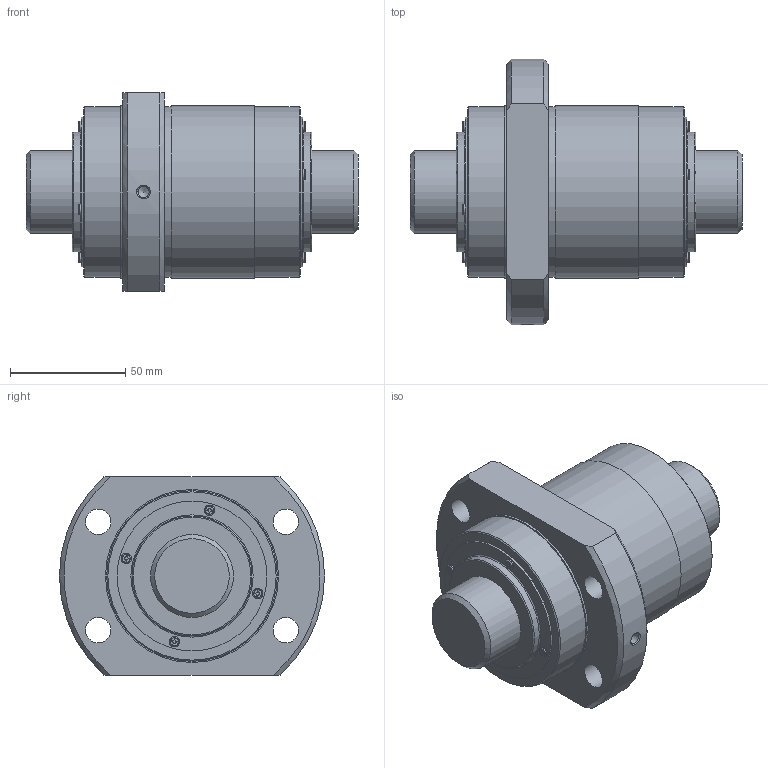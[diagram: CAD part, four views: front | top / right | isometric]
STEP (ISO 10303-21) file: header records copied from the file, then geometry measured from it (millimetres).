
FILE_DESCRIPTION(/* description */ ('STEP AP203'),/* implementation_level */ '2;1');
FILE_NAME(/* name */ 'BLK3624-5.6ZZ+144LC7T_000',/* time_stamp */ '2025-06-11T06:29:51+02:00',/* author */ ('License CC BY-ND 4.0'),/* organization */ ('CADENAS'),/* preprocessor_version */ 'ST-DEVELOPER v19.3',/* originating_system */ 'PARTsolutions',/* authorisation */ ' ');
FILE_SCHEMA (('CONFIG_CONTROL_DESIGN'));
Length unit declared in the file: millimetre
Products named in the file (3): BLK3624-5.6ZZ+144LC7T_000; BLK3624-5.60ZZ0 Shaft; BLK3624-5.6ZZ Nut
Assembly tree (2 placements, depth 2):
  BLK3624-5.6ZZ+144LC7T_000
    BLK3624-5.60ZZ0 Shaft
    BLK3624-5.6ZZ Nut
Bounding box: 144 x 115 x 86 mm (x, y, z)
Volume: 547130.8 mm3; surface area: 72801.5 mm2
Topology: 2 solids, 2 shells, 207 faces, 517 edges, 339 vertices
Faces by surface type: plane 127, cylinder 58, torus 12, cone 10
Full cylindrical faces by diameter (mm): 4.54 x8, 4.917 x1, 11 x4, 36 x2, 52 x2, 65 x2, 74 x3, 75 x2
Entity records: 6038 total; most frequent: CARTESIAN_POINT 1055, DIRECTION 1020, ORIENTED_EDGE 946, EDGE_CURVE 473, AXIS2_PLACEMENT_3D 346, VERTEX_POINT 338, LINE 328, VECTOR 328
